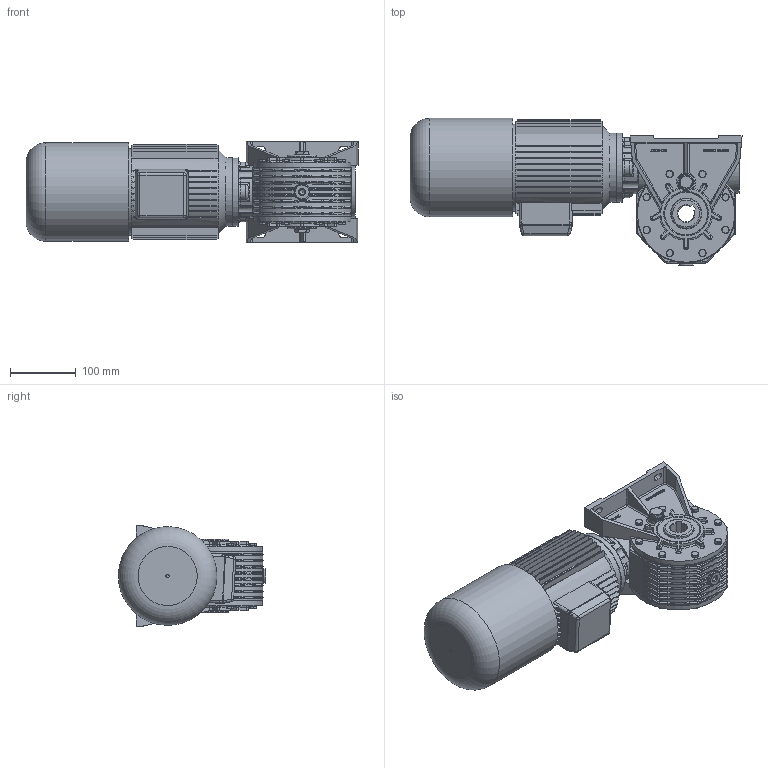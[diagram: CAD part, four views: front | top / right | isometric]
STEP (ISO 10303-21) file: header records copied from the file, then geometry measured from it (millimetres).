
FILE_DESCRIPTION((''),'2;1');
FILE_NAME('Y:\Archivi Inventor\Prog_01\GRAND_30\Figurini\MRV30 sito\71 Autofrenante\MRV30_P1_71_B14.stp','2013-02-06T09:48:31',('tech3'),(''),'Autodesk Inventor 2013','Autodesk Inventor 2013','');
FILE_SCHEMA(('AUTOMOTIVE_DESIGN { 1 0 10303 214 1 1 1 1 }'));
Length unit declared in the file: millimetre
Products named in the file (16): MRV30_71_B14; MRV30; 0103001-A2 fig; 0103008.A1 fig F=25; PARAOLIO 45x65x10; RCA_52x7; Guarnizione 3_8 GAS; Tappo 3_8 GAS_esagn_incsst; 0103010-A0 fig; 0103029; DIN EN 24017 M6 x 20; Tappo3_8 GAS; 0103028; UNI 5931 M 8 x  25; 0103006; motori B14 brake 71
Assembly tree (41 placements, depth 3):
  MRV30_71_B14
    MRV30
      0103001-A2 fig
      0103008.A1 fig F=25
      PARAOLIO 45x65x10  x2
      RCA_52x7
      Guarnizione 3_8 GAS  x4
      Tappo 3_8 GAS_esagn_incsst  x2
      0103010-A0 fig  x2
      0103029  x2
      DIN EN 24017 M6 x 20  x16
      Tappo3_8 GAS  x2
      0103028
      UNI 5931 M 8 x  25  x4
    0103006
    motori B14 brake 71
Bounding box: 504.9 x 223.98 x 152.7 mm (x, y, z)
Volume: 4885167.1 mm3; surface area: 800875.5 mm2
Topology: 41 solids, 44 shells, 2592 faces, 6367 edges, 3922 vertices
Faces by surface type: plane 1329, cylinder 617, bspline 292, cone 169, torus 153, sphere 32
Full cylindrical faces by diameter (mm): 2 x2, 4.917 x20, 5 x1, 6 x16, 6.5 x32, 6.647 x4, 7 x4, 8 x6, 8.5 x8, 8.88 x16, 11 x16, 13 x4, 13.046 x2, 14 x1, 14.95 x4, 16.3 x4, 16.5 x2, 22 x8, 25 x3, 43 x1, 45 x4, 45.76 x1, 50.881 x2, 52 x6, 55 x1, 60.5 x2, 65 x4, 70 x1, 75 x2, 77 x1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
Entity records: 58745 total; most frequent: CARTESIAN_POINT 18352, ORIENTED_EDGE 8066, DIRECTION 7954, EDGE_CURVE 4033, AXIS2_PLACEMENT_3D 2902, VERTEX_POINT 2580, VECTOR 2150, LINE 2150
